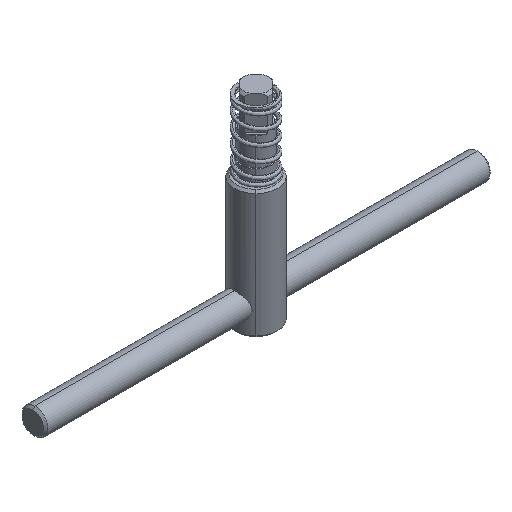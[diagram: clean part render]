
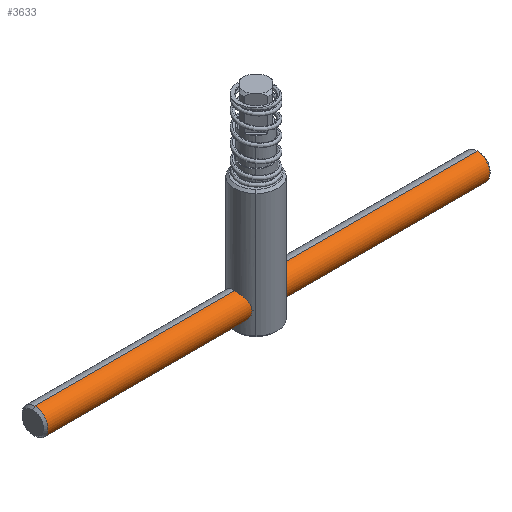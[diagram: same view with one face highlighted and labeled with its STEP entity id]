
A CAD part, isometric view. The second image highlights one B-rep face of the part: STEP entity #3633.
In plain terms, the highlighted cylindrical face has radius 6 mm (diameter 12 mm), a partial arc.
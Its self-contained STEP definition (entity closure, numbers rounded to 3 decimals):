
#90 = VERTEX_POINT ( 'NONE', #498 ) ;
#149 = AXIS2_PLACEMENT_3D ( 'NONE', #3805, #3060, #1377 ) ;
#278 = VERTEX_POINT ( 'NONE', #2716 ) ;
#351 = CARTESIAN_POINT ( 'NONE',  ( -102.25, 0., -6. ) ) ;
#417 = DIRECTION ( 'NONE',  ( -1., 0., 0. ) ) ;
#498 = CARTESIAN_POINT ( 'NONE',  ( -102.25, 0., 6. ) ) ;
#512 = DIRECTION ( 'NONE',  ( 0., 0., -1. ) ) ;
#752 = EDGE_LOOP ( 'NONE', ( #3467, #1649, #2584, #2171 ) ) ;
#808 = CARTESIAN_POINT ( 'NONE',  ( 103.25, 0., -6. ) ) ;
#1244 = LINE ( 'NONE', #3006, #4486 ) ;
#1249 = CARTESIAN_POINT ( 'NONE',  ( -102.25, 0., 0. ) ) ;
#1257 = EDGE_CURVE ( 'NONE', #278, #90, #1244, .T. ) ;
#1270 = CARTESIAN_POINT ( 'NONE',  ( 102.25, 0., 0. ) ) ;
#1358 = VECTOR ( 'NONE', #417, 1000. ) ;
#1377 = DIRECTION ( 'NONE',  ( 0., 0., 1. ) ) ;
#1629 = DIRECTION ( 'NONE',  ( 1., 0., 0. ) ) ;
#1649 = ORIENTED_EDGE ( 'NONE', *, *, #4164, .T. ) ;
#1922 = DIRECTION ( 'NONE',  ( -1., 0., 0. ) ) ;
#2045 = CYLINDRICAL_SURFACE ( 'NONE', #149, 6. ) ;
#2171 = ORIENTED_EDGE ( 'NONE', *, *, #4390, .T. ) ;
#2325 = DIRECTION ( 'NONE',  ( -1., 0., 0. ) ) ;
#2418 = FACE_OUTER_BOUND ( 'NONE', #752, .T. ) ;
#2573 = LINE ( 'NONE', #808, #1358 ) ;
#2584 = ORIENTED_EDGE ( 'NONE', *, *, #1257, .T. ) ;
#2610 = CIRCLE ( 'NONE', #4292, 6. ) ;
#2716 = CARTESIAN_POINT ( 'NONE',  ( 102.25, 0., 6. ) ) ;
#2827 = CARTESIAN_POINT ( 'NONE',  ( 102.25, 0., -6. ) ) ;
#2943 = DIRECTION ( 'NONE',  ( 0., 0., -1. ) ) ;
#3006 = CARTESIAN_POINT ( 'NONE',  ( 103.25, 0., 6. ) ) ;
#3060 = DIRECTION ( 'NONE',  ( -1., 0., 0. ) ) ;
#3122 = AXIS2_PLACEMENT_3D ( 'NONE', #1249, #1629, #512 ) ;
#3467 = ORIENTED_EDGE ( 'NONE', *, *, #4021, .F. ) ;
#3617 = VERTEX_POINT ( 'NONE', #351 ) ;
#3633 = ADVANCED_FACE ( 'NONE', ( #2418 ), #2045, .T. ) ;
#3805 = CARTESIAN_POINT ( 'NONE',  ( 103.25, 0., 0. ) ) ;
#3927 = VERTEX_POINT ( 'NONE', #2827 ) ;
#4021 = EDGE_CURVE ( 'NONE', #3927, #3617, #2573, .T. ) ;
#4164 = EDGE_CURVE ( 'NONE', #3927, #278, #2610, .T. ) ;
#4292 = AXIS2_PLACEMENT_3D ( 'NONE', #1270, #2325, #2943 ) ;
#4390 = EDGE_CURVE ( 'NONE', #90, #3617, #4446, .T. ) ;
#4446 = CIRCLE ( 'NONE', #3122, 6. ) ;
#4486 = VECTOR ( 'NONE', #1922, 1000. ) ;
